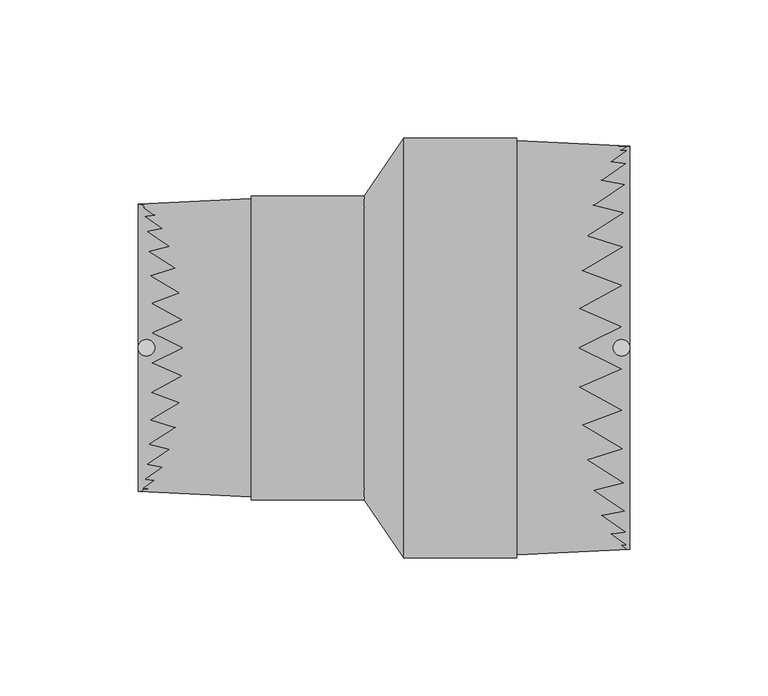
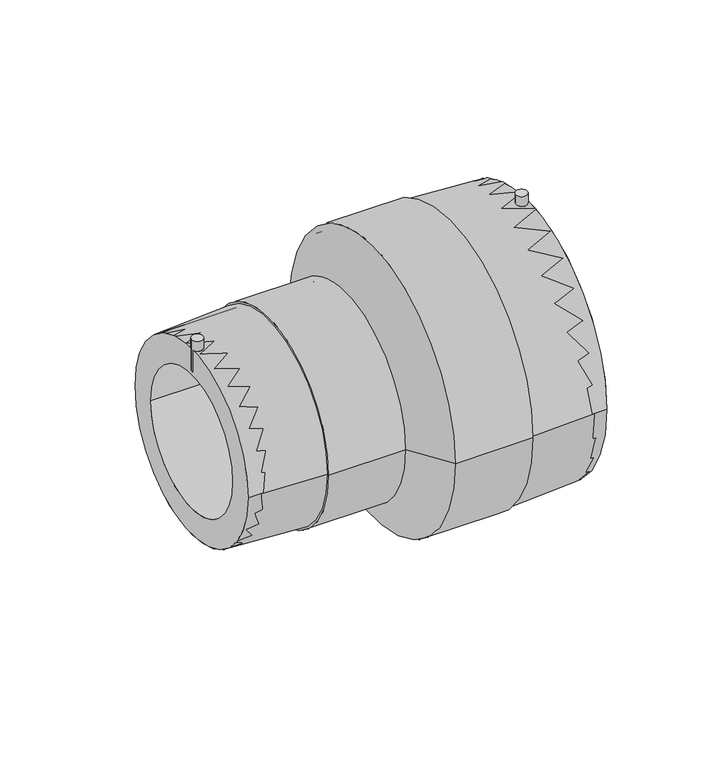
"""IFC4 building model written with IfcOpenShell, lengths in millimetres: pipe fitting geometry, EGB_VASEN_ PPR_Manguito reductor electrosoldable WXRD110 : Manguito reductor electrosoldable WXRD110."""

from ifc_helpers import new_model, si_unit, point, frame, frame_2d, origin, origin_2d, place, context, project, spatial, polyline, circle_curve, trimmed, segment, composite_curve, outline, extrude, source, transform, mapped, element, save
from ifc_brep_helpers import plane_surface, cylinder_surface, revolved_surface, advanced_brep


def pipe_fitting_f96b5d21(model_context):
    return source(origin(), model_context, "Body", "SolidModel", [
        extrude(outline(composite_curve([segment(trimmed(circle_curve(frame_2d((86.0, 0.0)), 3.0), [point((83.0, 0.0))], [point((89.0, 0.0))], False, "CARTESIAN"), True, "CONTINUOUS"), segment(trimmed(circle_curve(frame_2d((86.0, 0.0)), 3.0), [point((89.0, 0.0))], [point((83.0, 0.0))], False, "CARTESIAN"), True, "CONTINUOUS")], self_intersect=False)), frame((0.0, 0.0, 57.0), z_axis=(0.0, 0.0, 1.0), x_axis=(1.0, 0.0, 0.0)), (0.0, 0.0, 1.0), 21.0),
        extrude(outline(composite_curve([segment(trimmed(circle_curve(frame_2d((-86.0, 0.0)), 3.0), [point((-89.0, 0.0))], [point((-83.0, 0.0))], False, "CARTESIAN"), True, "CONTINUOUS"), segment(trimmed(circle_curve(frame_2d((-86.0, 0.0)), 3.0), [point((-83.0, 0.0))], [point((-89.0, 0.0))], False, "CARTESIAN"), True, "CONTINUOUS")], self_intersect=False)), frame((0.0, 0.0, 39.5), z_axis=(0.0, 0.0, 1.0), x_axis=(1.0, 0.0, 0.0)), (0.0, 0.0, 1.0), 17.5),
        extrude(outline(composite_curve([segment(trimmed(circle_curve(origin_2d(), 73.0), [point((-73.0, 0.0))], [point((73.0, 0.0))], False, "CARTESIAN"), True, "CONTINUOUS"), segment(trimmed(circle_curve(origin_2d(), 73.0), [point((73.0, 0.0))], [point((-73.0, 0.0))], False, "CARTESIAN"), True, "CONTINUOUS")], self_intersect=False), holes=[composite_curve([segment(trimmed(circle_curve(origin_2d(), 55.0), [point((-55.0, 0.0))], [point((55.0, 0.0))], True, "CARTESIAN"), True, "CONTINUOUS"), segment(trimmed(circle_curve(origin_2d(), 55.0), [point((55.0, 0.0))], [point((-55.0, 0.0))], True, "CARTESIAN"), True, "CONTINUOUS")], self_intersect=False)]), frame((7.12, 0.0, 0.0), z_axis=(1.0, 0.0, 0.0), x_axis=(0.0, 1.0, 0.0)), (0.0, 0.0, 1.0), 81.88),
        extrude(outline(composite_curve([segment(trimmed(circle_curve(origin_2d(), 52.0), [point((-52.0, 0.0))], [point((52.0, 0.0))], False, "CARTESIAN"), True, "CONTINUOUS"), segment(trimmed(circle_curve(origin_2d(), 52.0), [point((52.0, 0.0))], [point((-52.0, 0.0))], False, "CARTESIAN"), True, "CONTINUOUS")], self_intersect=False), holes=[composite_curve([segment(trimmed(circle_curve(origin_2d(), 37.5), [point((-37.5, 0.0))], [point((37.5, 0.0))], True, "CARTESIAN"), True, "CONTINUOUS"), segment(trimmed(circle_curve(origin_2d(), 37.5), [point((37.5, 0.0))], [point((-37.5, 0.0))], True, "CARTESIAN"), True, "CONTINUOUS")], self_intersect=False)]), frame((-89.0, 0.0, 0.0), z_axis=(1.0, 0.0, 0.0), x_axis=(0.0, 1.0, 0.0)), (0.0, 0.0, 1.0), 81.88),
        advanced_brep(
        [(7.12, -73.0, 0.0), (7.12, 73.0, 0.0), (-7.12, -52.0, 0.0), (-7.12, 52.0, 0.0)],
        [
            (0, 1, circle_curve(frame((7.12, 0.0, 0.0), z_axis=(1.0, 0.0, 0.0), x_axis=(0.0, -1.0, 0.0)), 73.0)),
            (1, 0, circle_curve(frame((7.12, 0.0, 0.0), z_axis=(1.0, 0.0, 0.0), x_axis=(0.0, 1.0, 0.0)), 73.0)),
            (2, 3, circle_curve(frame((-7.12, 0.0, 0.0), z_axis=(-1.0, 0.0, 0.0), x_axis=(0.0, 1.0, 0.0)), 52.0)),
            (3, 2, circle_curve(frame((-7.12, 0.0, 0.0), z_axis=(-1.0, 0.0, 0.0), x_axis=(0.0, -1.0, 0.0)), 52.0)),
            (3, 1),
            (0, 2),
        ],
        [
            plane_surface(frame((7.12, 0.0, 0.0), z_axis=(1.0, 0.0, 0.0), x_axis=(0.0, 0.0, -1.0))),
            plane_surface(frame((-7.12, 0.0, 0.0), z_axis=(-1.0, 0.0, 0.0), x_axis=(0.0, 0.0, -1.0))),
            revolved_surface(polyline([(-7.119999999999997, 52.00000000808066, 0.0), (7.119999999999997, 73.0, 0.0)]), (-42.3809524, 0.0, 0.0), (1.0, 0.0, 0.0)),
            revolved_surface(polyline([(-7.119999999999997, -52.00000000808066, 0.0), (7.119999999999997, -73.0, 0.0)]), (-42.3809524, 0.0, 0.0), (1.0, 0.0, 0.0)),
        ],
        [
            (0, [[1, 2]]),
            (1, [[3, 4]]),
            (2, [[-4, 5, -1, 6]]),
            (3, [[-3, -6, -2, -5]]),
        ],
    ),
        advanced_brep(
        [(7.12, -73.0, 0.0), (7.12, 73.0, 0.0), (-7.12, 52.0, 0.0), (-7.12, -52.0, 0.0), (89.0, -73.0, 0.0), (89.0, 73.0, 0.0), (48.06, -75.0, 0.0), (48.06, 75.0, 0.0), (48.06, -76.0, 0.0), (48.06, 76.0, 0.0), (7.12, -76.0, 0.0), (7.12, 76.0, 0.0), (-7.12, -55.0, 0.0), (-7.12, 55.0, 0.0), (-48.06, -55.0, 0.0), (-48.06, 55.0, 0.0), (-48.06, -54.0, 0.0), (-48.06, 54.0, 0.0), (-89.0, -52.0, 0.0), (-89.0, 52.0, 0.0)],
        [
            (0, 1, circle_curve(frame((7.12, 0.0, 0.0), z_axis=(1.0, 0.0, 0.0), x_axis=(0.0, 1.0, 0.0)), 73.0)),
            (1, 2),
            (2, 3, circle_curve(frame((-7.12, 0.0, 0.0), z_axis=(-1.0, 0.0, 0.0), x_axis=(0.0, 1.0, 0.0)), 52.0)),
            (3, 0),
            (1, 0, circle_curve(frame((7.12, 0.0, 0.0), z_axis=(1.0, 0.0, 0.0), x_axis=(0.0, 1.0, 0.0)), 73.0)),
            (3, 2, circle_curve(frame((-7.12, 0.0, 0.0), z_axis=(-1.0, 0.0, 0.0), x_axis=(0.0, 1.0, 0.0)), 52.0)),
            (4, 5, circle_curve(frame((89.0, 0.0, 0.0), z_axis=(1.0, 0.0, 0.0), x_axis=(0.0, 1.0, 0.0)), 73.0)),
            (5, 1),
            (0, 4),
            (5, 4, circle_curve(frame((89.0, 0.0, 0.0), z_axis=(1.0, 0.0, 0.0), x_axis=(0.0, 1.0, 0.0)), 73.0)),
            (6, 7, circle_curve(frame((48.06, 0.0, 0.0), z_axis=(1.0, 0.0, 0.0), x_axis=(0.0, 1.0, 0.0)), 75.0)),
            (7, 5),
            (4, 6),
            (7, 6, circle_curve(frame((48.06, 0.0, 0.0), z_axis=(1.0, 0.0, 0.0), x_axis=(0.0, 1.0, 0.0)), 75.0)),
            (8, 9, circle_curve(frame((48.06, 0.0, 0.0), z_axis=(1.0, 0.0, 0.0), x_axis=(0.0, 1.0, 0.0)), 76.0)),
            (9, 7),
            (6, 8),
            (9, 8, circle_curve(frame((48.06, 0.0, 0.0), z_axis=(1.0, 0.0, 0.0), x_axis=(0.0, 1.0, 0.0)), 76.0)),
            (10, 11, circle_curve(frame((7.12, 0.0, 0.0), z_axis=(1.0, 0.0, 0.0), x_axis=(0.0, 1.0, 0.0)), 76.0)),
            (11, 9),
            (8, 10),
            (11, 10, circle_curve(frame((7.12, 0.0, 0.0), z_axis=(1.0, 0.0, 0.0), x_axis=(0.0, 1.0, 0.0)), 76.0)),
            (12, 13, circle_curve(frame((-7.12, 0.0, 0.0), z_axis=(1.0, 0.0, 0.0), x_axis=(0.0, 1.0, 0.0)), 55.0)),
            (13, 11),
            (10, 12),
            (13, 12, circle_curve(frame((-7.12, 0.0, 0.0), z_axis=(1.0, 0.0, 0.0), x_axis=(0.0, 1.0, 0.0)), 55.0)),
            (14, 15, circle_curve(frame((-48.06, 0.0, 0.0), z_axis=(1.0, 0.0, 0.0), x_axis=(0.0, 1.0, 0.0)), 55.0)),
            (15, 13),
            (12, 14),
            (15, 14, circle_curve(frame((-48.06, 0.0, 0.0), z_axis=(1.0, 0.0, 0.0), x_axis=(0.0, 1.0, 0.0)), 55.0)),
            (16, 17, circle_curve(frame((-48.06, 0.0, 0.0), z_axis=(1.0, 0.0, 0.0), x_axis=(0.0, 1.0, 0.0)), 54.0)),
            (17, 15),
            (14, 16),
            (17, 16, circle_curve(frame((-48.06, 0.0, 0.0), z_axis=(1.0, 0.0, 0.0), x_axis=(0.0, 1.0, 0.0)), 54.0)),
            (18, 19, circle_curve(frame((-89.0, 0.0, 0.0), z_axis=(1.0, 0.0, 0.0), x_axis=(0.0, 1.0, 0.0)), 52.0)),
            (19, 17),
            (16, 18),
            (19, 18, circle_curve(frame((-89.0, 0.0, 0.0), z_axis=(1.0, 0.0, 0.0), x_axis=(0.0, 1.0, 0.0)), 52.0)),
            (2, 19),
            (18, 3),
        ],
        [
            revolved_surface(polyline([(-7.12, 52.0, 0.0), (7.12, 73.0, 0.0)]), (-124.0, 0.0, 0.0), (-1.0, 0.0, 0.0)),
            revolved_surface(polyline([(7.1200000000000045, 73.0, 0.0), (89.0, 73.0, 0.0)]), (-124.0, 0.0, 0.0), (-1.0, 0.0, 0.0)),
            revolved_surface(polyline([(89.0, 73.0, 0.0), (48.06, 75.0, 0.0)]), (-124.0, 0.0, 0.0), (-1.0, 0.0, 0.0)),
            plane_surface(frame((48.06, 0.0, 0.0), z_axis=(1.0, 0.0, 0.0), x_axis=(0.0, 1.0, 0.0))),
            cylinder_surface(frame((-124.0, 0.0, 0.0), z_axis=(-1.0, 0.0, 0.0), x_axis=(0.0, 1.0, 0.0)), 76.0),
            revolved_surface(polyline([(7.12, 76.0, 0.0), (-7.12, 55.0, 0.0)]), (-124.0, 0.0, 0.0), (-1.0, 0.0, 0.0)),
            cylinder_surface(frame((-124.0, 0.0, 0.0), z_axis=(-1.0, 0.0, 0.0), x_axis=(0.0, 1.0, 0.0)), 55.0),
            plane_surface(frame((-48.06, 0.0, 0.0), z_axis=(-1.0, 0.0, 0.0), x_axis=(0.0, 1.0, 0.0))),
            revolved_surface(polyline([(-48.06, 54.0, 0.0), (-89.0, 52.0, 0.0)]), (-124.0, 0.0, 0.0), (-1.0, 0.0, 0.0)),
            revolved_surface(polyline([(-89.0, 52.0, 0.0), (-7.1200000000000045, 52.0, 0.0)]), (-124.0, 0.0, 0.0), (-1.0, 0.0, 0.0)),
        ],
        [
            (0, [[1, 2, 3, 4]]),
            (0, [[5, -4, 6, -2]]),
            (1, [[7, 8, -1, 9]]),
            (1, [[10, -9, -5, -8]]),
            (2, [[11, 12, -7, 13]]),
            (2, [[14, -13, -10, -12]]),
            (3, [[15, 16, -11, 17]]),
            (3, [[18, -17, -14, -16]]),
            (4, [[19, 20, -15, 21]]),
            (4, [[22, -21, -18, -20]]),
            (5, [[23, 24, -19, 25]]),
            (5, [[26, -25, -22, -24]]),
            (6, [[27, 28, -23, 29]]),
            (6, [[30, -29, -26, -28]]),
            (7, [[31, 32, -27, 33]]),
            (7, [[34, -33, -30, -32]]),
            (8, [[35, 36, -31, 37]]),
            (8, [[38, -37, -34, -36]]),
            (9, [[-3, 39, -35, 40]]),
            (9, [[-6, -40, -38, -39]]),
        ],
    ),
    ])


if __name__ == "__main__":
    model = new_model("IFC4")
    model_context = context("Model", 3, world=origin())
    ifc_project = project(units=[si_unit("LENGTHUNIT", "METRE", prefix="MILLI")], contexts=[model_context])
    site = spatial("IfcSite", under=ifc_project)
    building = spatial("IfcBuilding", under=site)
    placement = place(None, origin())
    pipe_fitting_shape = pipe_fitting_f96b5d21(model_context)
    element("IfcPipeFitting", 1, ObjectType="EGB_VASEN_ PPR_Manguito reductor electrosoldable WXRD110 : Manguito reductor electrosoldable WXRD110", at=placement, inside=building, context=model_context, shape_type="MappedRepresentation", body=[
        mapped(pipe_fitting_shape, transform((0.0, 0.0, 0.0), x_axis=(1.0, 0.0, 0.0), y_axis=(0.0, 1.0, 0.0), z_axis=(0.0, 0.0, 1.0))),
    ])
    save(model, "model.ifc")
